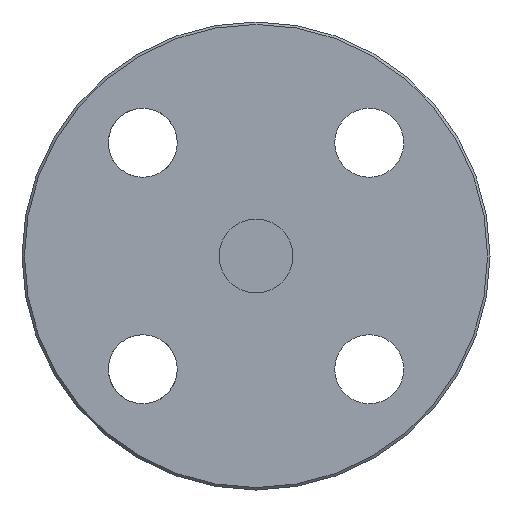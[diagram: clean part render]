
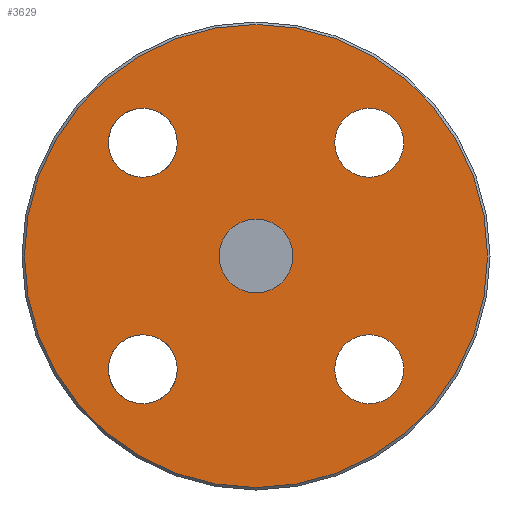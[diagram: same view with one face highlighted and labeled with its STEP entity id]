
A CAD part, left-side view. The second image highlights one B-rep face of the part: STEP entity #3629.
In plain terms, the highlighted planar face has unit normal (-1, 0, 0).
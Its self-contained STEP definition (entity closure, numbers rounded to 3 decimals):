
#98=CIRCLE('',#3820,7.);
#103=CIRCLE('',#3827,7.);
#108=CIRCLE('',#3834,7.);
#114=CIRCLE('',#3842,7.);
#124=CIRCLE('',#3862,7.5);
#135=CIRCLE('',#3882,47.);
#220=FACE_BOUND('',#622,.T.);
#221=FACE_BOUND('',#623,.T.);
#222=FACE_BOUND('',#624,.T.);
#223=FACE_BOUND('',#625,.T.);
#224=FACE_BOUND('',#626,.T.);
#401=FACE_OUTER_BOUND('',#621,.T.);
#621=EDGE_LOOP('',(#3211));
#622=EDGE_LOOP('',(#3212));
#623=EDGE_LOOP('',(#3213));
#624=EDGE_LOOP('',(#3214));
#625=EDGE_LOOP('',(#3215));
#626=EDGE_LOOP('',(#3216));
#1702=VERTEX_POINT('',#6222);
#1707=VERTEX_POINT('',#6236);
#1712=VERTEX_POINT('',#6250);
#1719=VERTEX_POINT('',#6291);
#1732=VERTEX_POINT('',#6387);
#1748=VERTEX_POINT('',#6430);
#2184=EDGE_CURVE('',#1702,#1702,#98,.T.);
#2191=EDGE_CURVE('',#1707,#1707,#103,.T.);
#2198=EDGE_CURVE('',#1712,#1712,#108,.T.);
#2207=EDGE_CURVE('',#1719,#1719,#114,.T.);
#2225=EDGE_CURVE('',#1732,#1732,#124,.T.);
#2246=EDGE_CURVE('',#1748,#1748,#135,.T.);
#3211=ORIENTED_EDGE('',*,*,#2246,.F.);
#3212=ORIENTED_EDGE('',*,*,#2184,.T.);
#3213=ORIENTED_EDGE('',*,*,#2191,.T.);
#3214=ORIENTED_EDGE('',*,*,#2198,.T.);
#3215=ORIENTED_EDGE('',*,*,#2207,.T.);
#3216=ORIENTED_EDGE('',*,*,#2225,.T.);
#3434=PLANE('',#3883);
#3629=ADVANCED_FACE('',(#401,#220,#221,#222,#223,#224),#3434,.T.);
#3820=AXIS2_PLACEMENT_3D('',#6224,#4542,#4543);
#3827=AXIS2_PLACEMENT_3D('',#6238,#4558,#4559);
#3834=AXIS2_PLACEMENT_3D('',#6252,#4574,#4575);
#3842=AXIS2_PLACEMENT_3D('',#6293,#4592,#4593);
#3862=AXIS2_PLACEMENT_3D('',#6388,#4634,#4635);
#3882=AXIS2_PLACEMENT_3D('',#6432,#4682,#4683);
#3883=AXIS2_PLACEMENT_3D('',#6433,#4684,#4685);
#4542=DIRECTION('center_axis',(1.,0.,0.));
#4543=DIRECTION('ref_axis',(0.,0.,-1.));
#4558=DIRECTION('center_axis',(1.,0.,0.));
#4559=DIRECTION('ref_axis',(0.,0.,-1.));
#4574=DIRECTION('center_axis',(1.,0.,0.));
#4575=DIRECTION('ref_axis',(0.,0.,-1.));
#4592=DIRECTION('center_axis',(1.,0.,0.));
#4593=DIRECTION('ref_axis',(0.,0.,-1.));
#4634=DIRECTION('center_axis',(1.,0.,0.));
#4635=DIRECTION('ref_axis',(0.,0.,-1.));
#4682=DIRECTION('center_axis',(1.,0.,0.));
#4683=DIRECTION('ref_axis',(0.,-1.,0.));
#4684=DIRECTION('center_axis',(-1.,0.,0.));
#4685=DIRECTION('ref_axis',(0.,0.,1.));
#6222=CARTESIAN_POINT('',(-33.,22.981,-15.981));
#6224=CARTESIAN_POINT('Origin',(-33.,22.981,-22.981));
#6236=CARTESIAN_POINT('',(-33.,-22.981,-15.981));
#6238=CARTESIAN_POINT('Origin',(-33.,-22.981,-22.981));
#6250=CARTESIAN_POINT('',(-33.,-22.981,29.981));
#6252=CARTESIAN_POINT('Origin',(-33.,-22.981,22.981));
#6291=CARTESIAN_POINT('',(-33.,22.981,29.981));
#6293=CARTESIAN_POINT('Origin',(-33.,22.981,22.981));
#6387=CARTESIAN_POINT('',(-33.,0.,7.5));
#6388=CARTESIAN_POINT('Origin',(-33.,0.,0.));
#6430=CARTESIAN_POINT('',(-33.,47.,0.));
#6432=CARTESIAN_POINT('Origin',(-33.,0.,0.));
#6433=CARTESIAN_POINT('Origin',(-33.,23.75,0.));
